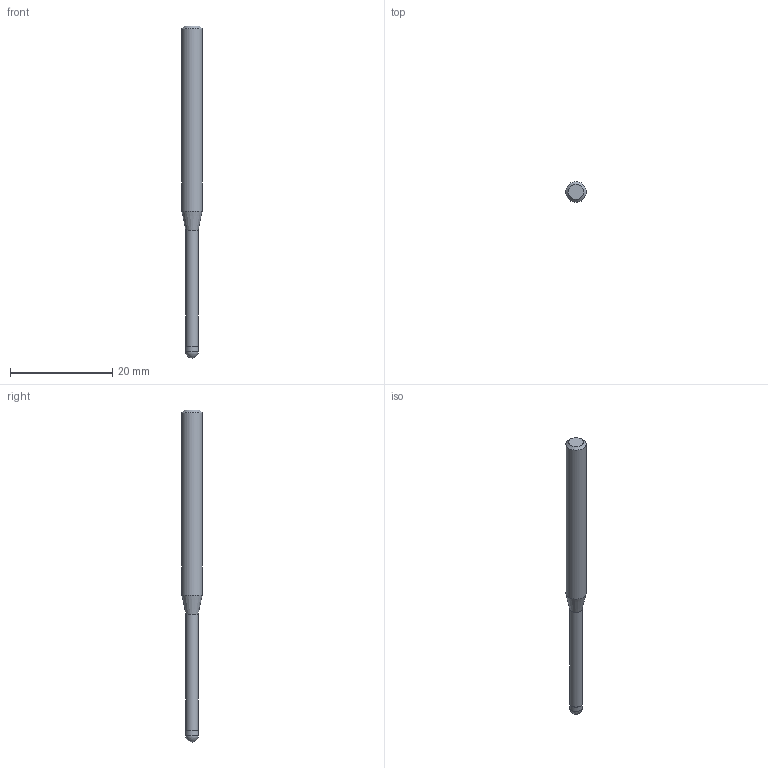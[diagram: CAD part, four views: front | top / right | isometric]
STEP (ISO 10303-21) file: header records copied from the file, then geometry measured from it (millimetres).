
FILE_DESCRIPTION((''),'2;1');
FILE_NAME('C:\Users\nsx150\AppData\Local\Temp\Mastercam 2021\3SYKECWX22\TEMP.step','2021-04-22T10:04:42',(''),(''),'STEP Write','Mastercam 2021 ... CNC Software, Inc.','');
FILE_SCHEMA(('AUTOMOTIVE_DESIGN'));
Length unit declared in the file: millimetre
Products named in the file (1): None
Bounding box: 4 x 4 x 65 mm (x, y, z)
Volume: 596.8 mm3; surface area: 701.3 mm2
Topology: 2 solids, 2 shells, 9 faces, 14 edges, 8 vertices
Faces by surface type: plane 3, cylinder 3, cone 2, sphere 1
Full cylindrical faces by diameter (mm): 2.4 x1, 2.5 x1, 4 x1
Entity records: 211 total; most frequent: DIRECTION 36, CARTESIAN_POINT 25, AXIS2_PLACEMENT_3D 18, ORIENTED_EDGE 14, EDGE_LOOP 14, STYLED_ITEM 12, ADVANCED_FACE 9, FACE_BOUND 8
